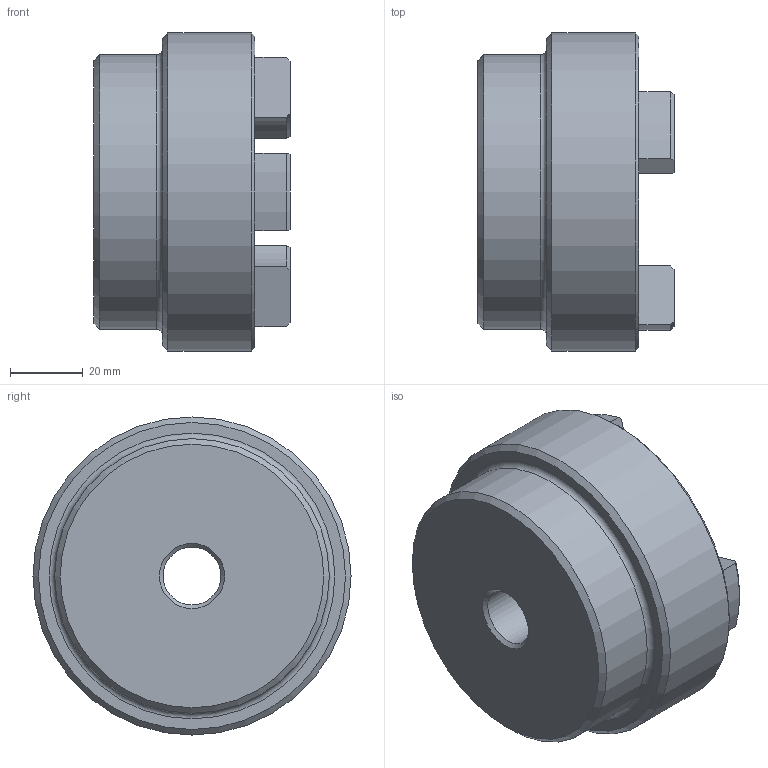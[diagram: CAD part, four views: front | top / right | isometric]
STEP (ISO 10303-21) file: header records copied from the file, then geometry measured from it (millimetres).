
FILE_DESCRIPTION (( 'STEP AP203' ), '1' );
FILE_NAME ('RC3.step', '2024-07-24T12:56:02', ( 'Adlan' ), ( '' ), 'SwSTEP 2.0', 'SolidWorks 2013', '' );
FILE_SCHEMA (( 'CONFIG_CONTROL_DESIGN' ));
Length unit declared in the file: inch
Products named in the file (1): RC3
Bounding box: 53.85 x 87.38 x 87.38 mm (x, y, z)
Volume: 190251.7 mm3; surface area: 29330.5 mm2
Topology: 1 solids, 1 shells, 60 faces, 146 edges, 90 vertices
Faces by surface type: cylinder 24, plane 13, torus 13, cone 10
Full cylindrical faces by diameter (mm): 15.883 x1, 75.438 x1, 87.376 x1
Entity records: 1841 total; most frequent: CARTESIAN_POINT 341, DIRECTION 324, ORIENTED_EDGE 274, EDGE_CURVE 137, AXIS2_PLACEMENT_3D 132, VERTEX_POINT 89, EDGE_LOOP 72, CIRCLE 71
